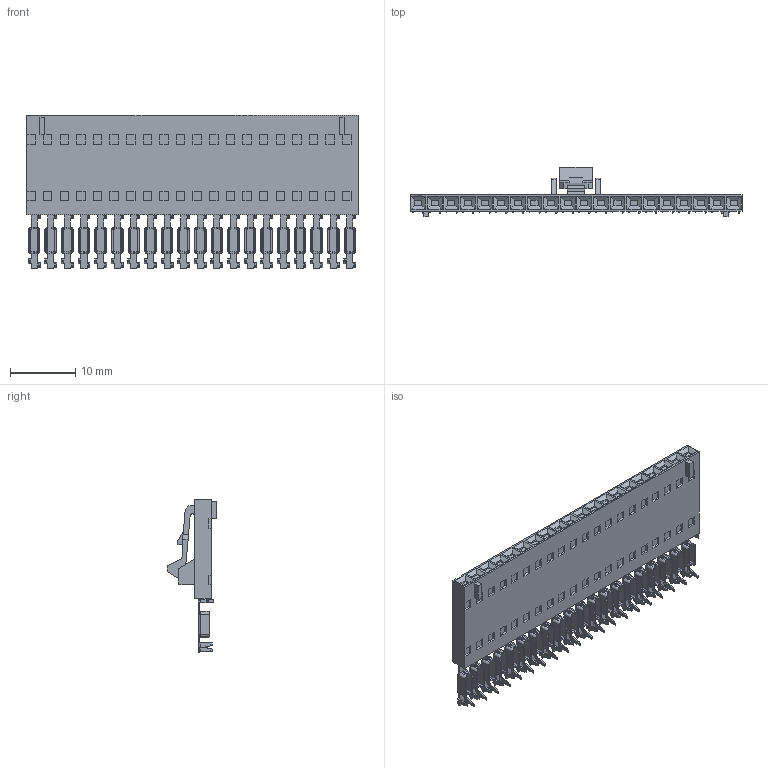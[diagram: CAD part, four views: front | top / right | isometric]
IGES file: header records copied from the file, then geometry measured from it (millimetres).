
Start section:  PTC IGES file: c-6-103644-9-w-3d.igs
Global section: file name: c-6-103644-9-w-3d.igs; native system: Creo Parametric by Parametric Technology Corporation; preprocessor: 2013050; author: workeradm; organization: Unknown; units: inch
Bounding box: 50.75 x 7.62 x 23.5 mm (x, y, z)
Surface area: 3431.3 mm2 (no closed solid volume)
Topology: 0 solids, 0 shells, 2276 faces, 12500 edges, 12500 vertices
Faces by surface type: bspline 1669, revolution 607
